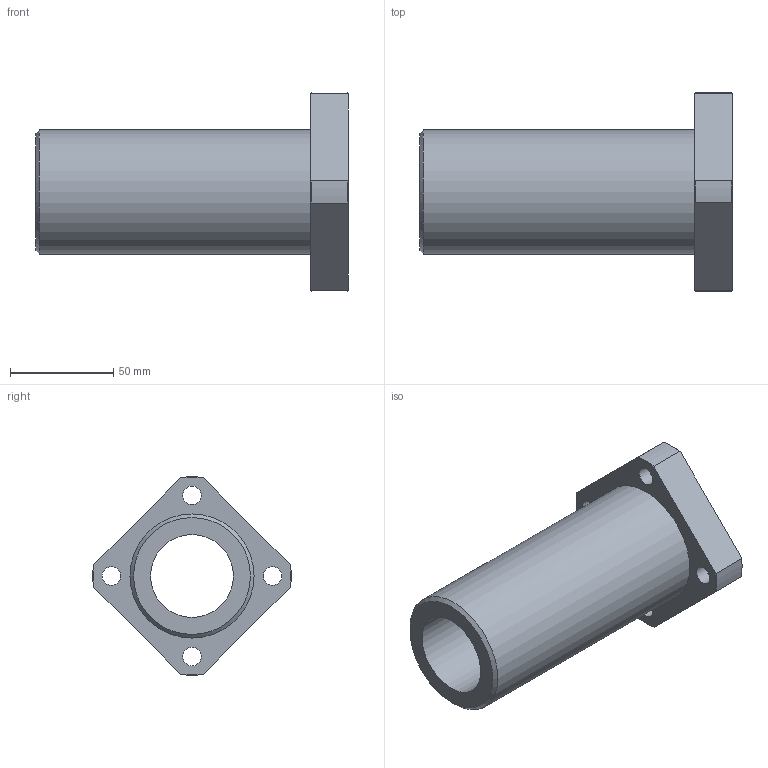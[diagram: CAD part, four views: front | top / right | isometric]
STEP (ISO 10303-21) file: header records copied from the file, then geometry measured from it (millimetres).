
FILE_DESCRIPTION(('STEP AP203'),'1');
FILE_NAME('//192.168.1.1/share/s-4 技術開発/s-4-4_CAD/s-4-4-3_見直し済み/PBC LINEAR修正済み/DFPJ/DFPJ_TOP/DFPJ/DFPJ40.step','2022-03-24T05:03:18',(' '),(' '),'Spatial InterOp 3D',' ',' ');
FILE_SCHEMA(('CONFIG_CONTROL_DESIGN'));
Length unit declared in the file: millimetre
Products named in the file (1): 1
Bounding box: 151 x 95.93 x 95.93 mm (x, y, z)
Volume: 277860.5 mm3; surface area: 59480.4 mm2
Topology: 1 solids, 1 shells, 34 faces, 85 edges, 58 vertices
Faces by surface type: cylinder 14, plane 11, cone 9
Full cylindrical faces by diameter (mm): 9 x4, 14 x4, 40 x1, 60 x1
Entity records: 1018 total; most frequent: CARTESIAN_POINT 205, DIRECTION 160, ORIENTED_EDGE 138, AXIS2_PLACEMENT_3D 72, EDGE_CURVE 69, EDGE_LOOP 60, VERTEX_POINT 53, FACE_OUTER_BOUND 44
